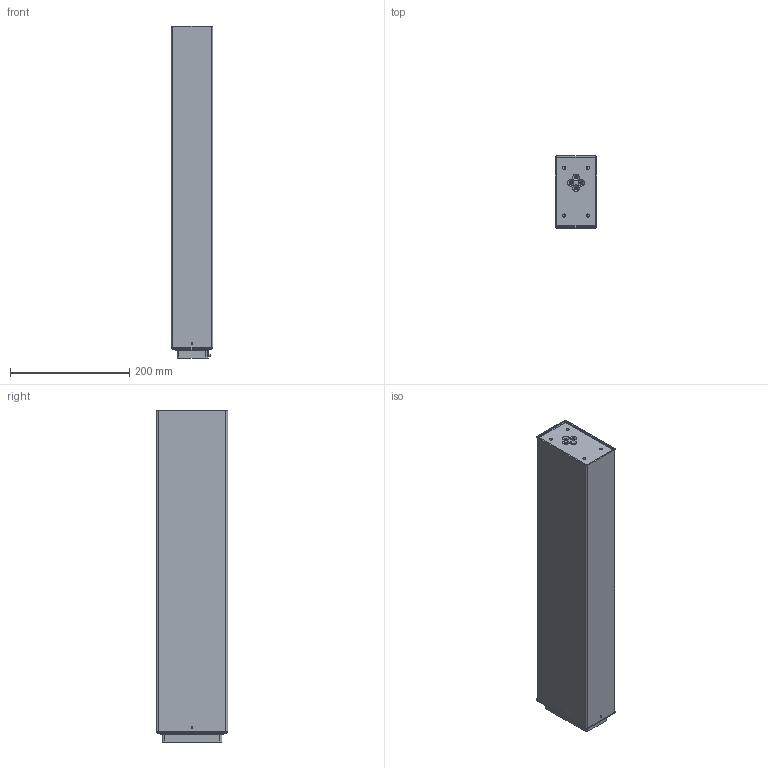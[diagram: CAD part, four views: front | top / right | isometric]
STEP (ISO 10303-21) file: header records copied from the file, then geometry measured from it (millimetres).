
FILE_DESCRIPTION (( 'STEP AP214' ), '1' );
FILE_NAME ('TL5-3D.STEP', '2017-07-19T07:49:30', ( '' ), ( '' ), 'SwSTEP 2.0', 'SolidWorks 2015', '' );
FILE_SCHEMA (( 'AUTOMOTIVE_DESIGN' ));
Length unit declared in the file: millimetre
Products named in the file (1): TL5-3D
Bounding box: 70 x 120 x 557.5 mm (x, y, z)
Surface area: 426215.5 mm2 (no closed solid volume)
Topology: 0 solids, 17 shells, 287 faces, 985 edges, 700 vertices
Faces by surface type: cylinder 138, plane 79, torus 33, cone 32, sphere 4, bspline 1
Entity records: 13977 total; most frequent: CARTESIAN_POINT 2110, DIRECTION 1976, ORIENTED_EDGE 1500, EDGE_CURVE 981, AXIS2_PLACEMENT_3D 724, VERTEX_POINT 700, LINE 528, VECTOR 528
